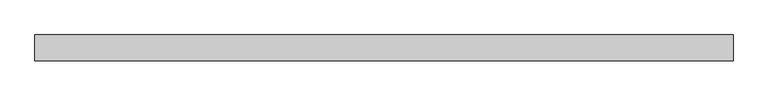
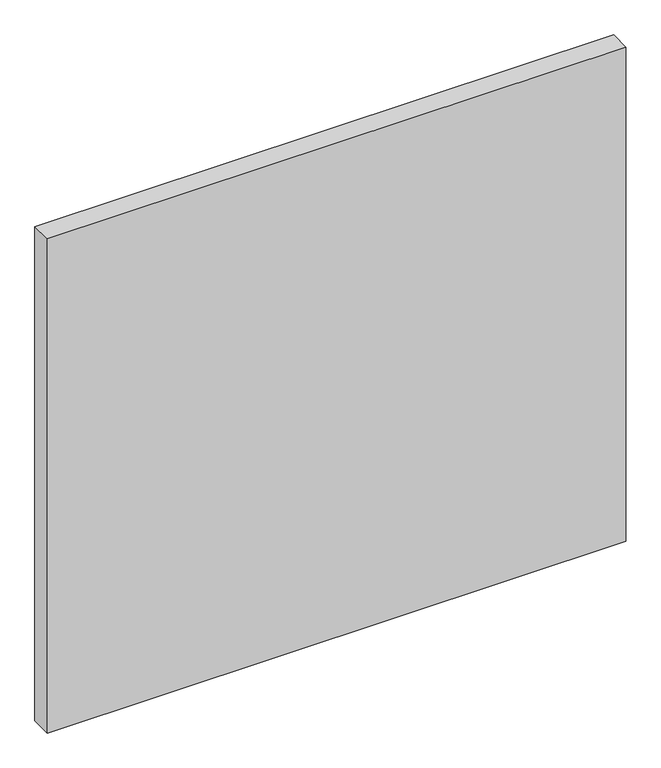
"""IFC4 building model written with IfcOpenShell, lengths in millimetres: plate geometry, Panneau système : Vitré."""

from ifc_helpers import new_model, si_unit, origin, origin_with_axes, place, context, project, spatial, polyline, outline, extrude, source, transform, mapped, element, save


def plate_a6acd960(model_context):
    return source(origin(), model_context, "Body", "SweptSolid", [
        extrude(outline(polyline([(545.4286113, -20.0), (-545.4286113, -20.0), (-545.4286113, 20.0), (545.4286113, 20.0), (545.4286113, -20.0)])), origin_with_axes(), (0.0, 0.0, 1.0), 985.0),
    ])


if __name__ == "__main__":
    model = new_model("IFC4")
    model_context = context("Model", 3, world=origin())
    ifc_project = project(units=[si_unit("LENGTHUNIT", "METRE", prefix="MILLI")], contexts=[model_context])
    site = spatial("IfcSite", under=ifc_project)
    building = spatial("IfcBuilding", under=site)
    placement = place(None, origin())
    plate_shape = plate_a6acd960(model_context)
    element("IfcPlate", 1, ObjectType="Panneau système : Vitré", at=placement, inside=building, context=model_context, shape_type="MappedRepresentation", body=[
        mapped(plate_shape, transform((0.0, 0.0, 0.0), x_axis=(1.0, 0.0, 0.0), y_axis=(0.0, 1.0, 0.0), z_axis=(0.0, 0.0, 1.0))),
    ])
    save(model, "model.ifc")
